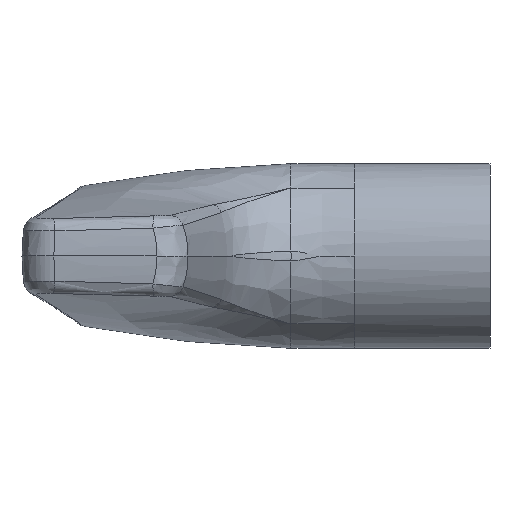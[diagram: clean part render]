
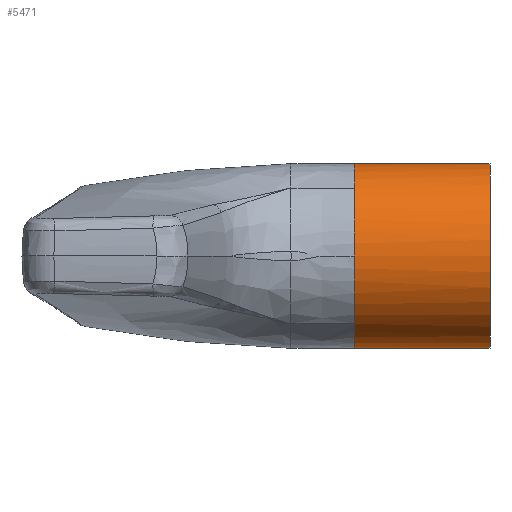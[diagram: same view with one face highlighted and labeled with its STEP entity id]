
A CAD part, front view. The second image highlights one B-rep face of the part: STEP entity #5471.
In plain terms, the highlighted cylindrical face has radius 12.75 mm (diameter 25.5 mm), a partial arc.
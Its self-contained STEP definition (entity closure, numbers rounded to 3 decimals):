
#256 = CARTESIAN_POINT ( 'NONE',  ( -18.75, -8.5, 9.505 ) ) ;
#303 = VECTOR ( 'NONE', #7227, 1000. ) ;
#322 = CARTESIAN_POINT ( 'NONE',  ( -18.75, 0., -12.75 ) ) ;
#454 = CARTESIAN_POINT ( 'NONE',  ( -18.75, -10.387, 7.482 ) ) ;
#547 = CARTESIAN_POINT ( 'NONE',  ( -18.75, -8.642, -9.375 ) ) ;
#548 = ORIENTED_EDGE ( 'NONE', *, *, #3263, .F. ) ;
#563 = EDGE_LOOP ( 'NONE', ( #3115, #1207, #6821, #8279, #7940, #548, #5978 ) ) ;
#991 = CARTESIAN_POINT ( 'NONE',  ( -18.75, -10.387, -7.482 ) ) ;
#1143 = CARTESIAN_POINT ( 'NONE',  ( -18.75, -8.642, 9.375 ) ) ;
#1207 = ORIENTED_EDGE ( 'NONE', *, *, #8418, .F. ) ;
#1384 = CARTESIAN_POINT ( 'NONE',  ( -18.75, -0.598, -12.75 ) ) ;
#1537 = EDGE_CURVE ( 'NONE', #5484, #10682, #6995, .T. ) ;
#1625 = LINE ( 'NONE', #5011, #10402 ) ;
#1630 = EDGE_CURVE ( 'NONE', #2137, #5484, #5731, .T. ) ;
#1868 = CARTESIAN_POINT ( 'NONE',  ( -18.75, -9.335, -8.7 ) ) ;
#1906 = CARTESIAN_POINT ( 'NONE',  ( 0., 0., 12.75 ) ) ;
#1928 = CARTESIAN_POINT ( 'NONE',  ( -18.75, -8.949, -9.092 ) ) ;
#2041 = CYLINDRICAL_SURFACE ( 'NONE', #11129, 12.75 ) ;
#2075 = CARTESIAN_POINT ( 'NONE',  ( -18.75, -1.715, 12.671 ) ) ;
#2083 = CARTESIAN_POINT ( 'NONE',  ( -18.75, -1.715, -12.671 ) ) ;
#2131 = CARTESIAN_POINT ( 'NONE',  ( -18.75, -4.039, 12.11 ) ) ;
#2135 = CARTESIAN_POINT ( 'NONE',  ( -18.75, -12.511, -2.521 ) ) ;
#2137 = VERTEX_POINT ( 'NONE', #4367 ) ;
#2210 = CARTESIAN_POINT ( 'NONE',  ( -18.75, -12.511, 2.521 ) ) ;
#2526 = CARTESIAN_POINT ( 'NONE',  ( -18.75, -12.75, 0. ) ) ;
#2558 = EDGE_CURVE ( 'NONE', #11039, #10682, #8171, .T. ) ;
#2742 = CARTESIAN_POINT ( 'NONE',  ( -18.75, -8.642, -9.375 ) ) ;
#2954 = CARTESIAN_POINT ( 'NONE',  ( -18.75, -6.808, 10.828 ) ) ;
#3013 = CARTESIAN_POINT ( 'NONE',  ( -18.75, -12.283, -3.445 ) ) ;
#3115 = ORIENTED_EDGE ( 'NONE', *, *, #10852, .F. ) ;
#3134 = CARTESIAN_POINT ( 'NONE',  ( -18.75, -5.238, -11.671 ) ) ;
#3147 = CARTESIAN_POINT ( 'NONE',  ( 0., 0., 0. ) ) ;
#3263 = EDGE_CURVE ( 'NONE', #3416, #2137, #5042, .T. ) ;
#3416 = VERTEX_POINT ( 'NONE', #547 ) ;
#4001 = CARTESIAN_POINT ( 'NONE',  ( -18.75, -8.5, -9.505 ) ) ;
#4021 = CARTESIAN_POINT ( 'NONE',  ( -18.75, -8.642, 9.375 ) ) ;
#4367 = CARTESIAN_POINT ( 'NONE',  ( -18.75, -12.75, 0. ) ) ;
#4406 = VERTEX_POINT ( 'NONE', #10110 ) ;
#4534 = CARTESIAN_POINT ( 'NONE',  ( -18.75, -2.888, 12.431 ) ) ;
#4555 = CARTESIAN_POINT ( 'NONE',  ( -18.75, -11.295, -6.069 ) ) ;
#4880 = DIRECTION ( 'NONE',  ( 0., 0., -1. ) ) ;
#4960 = CIRCLE ( 'NONE', #11513, 12.75 ) ;
#5011 = CARTESIAN_POINT ( 'NONE',  ( 0., 0., -12.75 ) ) ;
#5042 = B_SPLINE_CURVE_WITH_KNOTS ( 'NONE', 3,
 ( #2742, #1928, #1868, #991, #4555, #5497, #3013, #2135, #7863, #5049, #2526 ),
 .UNSPECIFIED., .F., .F.,
 ( 4, 1, 1, 1, 1, 1, 1, 1, 4 ),
 ( 0.473, 0.536, 0.556, 0.714, 0.786, 0.833, 0.857, 0.929, 1. ),
 .UNSPECIFIED. ) ;
#5049 = CARTESIAN_POINT ( 'NONE',  ( -18.75, -12.75, -0.475 ) ) ;
#5471 = ADVANCED_FACE ( 'NONE', ( #10073 ), #2041, .T. ) ;
#5484 = VERTEX_POINT ( 'NONE', #8825 ) ;
#5497 = CARTESIAN_POINT ( 'NONE',  ( -18.75, -12.003, -4.355 ) ) ;
#5637 = CARTESIAN_POINT ( 'NONE',  ( -18.75, -0.598, 12.75 ) ) ;
#5721 = CARTESIAN_POINT ( 'NONE',  ( -18.75, -12.75, 0.475 ) ) ;
#5731 = B_SPLINE_CURVE_WITH_KNOTS ( 'NONE', 3,
 ( #6653, #5721, #9306, #2210, #5779, #6544, #8485, #454, #6493, #9251, #4021 ),
 .UNSPECIFIED., .F., .F.,
 ( 4, 1, 1, 1, 1, 1, 1, 1, 4 ),
 ( 0., 0.071, 0.143, 0.167, 0.214, 0.286, 0.444, 0.464, 0.527 ),
 .UNSPECIFIED. ) ;
#5779 = CARTESIAN_POINT ( 'NONE',  ( -18.75, -12.283, 3.445 ) ) ;
#5887 = DIRECTION ( 'NONE',  ( -1., 0., 0. ) ) ;
#5978 = ORIENTED_EDGE ( 'NONE', *, *, #6024, .F. ) ;
#6024 = EDGE_CURVE ( 'NONE', #4406, #3416, #11212, .T. ) ;
#6118 = CARTESIAN_POINT ( 'NONE',  ( 0., 0., 12.75 ) ) ;
#6493 = CARTESIAN_POINT ( 'NONE',  ( -18.75, -9.335, 8.7 ) ) ;
#6544 = CARTESIAN_POINT ( 'NONE',  ( -18.75, -12.003, 4.355 ) ) ;
#6631 = DIRECTION ( 'NONE',  ( 1., 0., 0. ) ) ;
#6648 = DIRECTION ( 'NONE',  ( 0., 0., 1. ) ) ;
#6653 = CARTESIAN_POINT ( 'NONE',  ( -18.75, -12.75, 0. ) ) ;
#6751 = CARTESIAN_POINT ( 'NONE',  ( -18.75, -2.888, -12.431 ) ) ;
#6792 = CARTESIAN_POINT ( 'NONE',  ( -18.75, 0., 12.75 ) ) ;
#6806 = CARTESIAN_POINT ( 'NONE',  ( 0., 0., 0. ) ) ;
#6821 = ORIENTED_EDGE ( 'NONE', *, *, #2558, .T. ) ;
#6995 = B_SPLINE_CURVE_WITH_KNOTS ( 'NONE', 3,
 ( #1143, #256, #10158, #2954, #10106, #2131, #4534, #2075, #5637, #9225 ),
 .UNSPECIFIED., .F., .F.,
 ( 4, 1, 1, 1, 1, 1, 1, 4 ),
 ( 0.527, 0.556, 0.643, 0.732, 0.821, 0.833, 0.911, 1. ),
 .UNSPECIFIED. ) ;
#7227 = DIRECTION ( 'NONE',  ( -1., 0., 0. ) ) ;
#7863 = CARTESIAN_POINT ( 'NONE',  ( -18.75, -12.697, -1.426 ) ) ;
#7940 = ORIENTED_EDGE ( 'NONE', *, *, #1630, .F. ) ;
#8171 = LINE ( 'NONE', #1906, #303 ) ;
#8279 = ORIENTED_EDGE ( 'NONE', *, *, #1537, .F. ) ;
#8410 = CARTESIAN_POINT ( 'NONE',  ( -18.75, -6.808, -10.828 ) ) ;
#8418 = EDGE_CURVE ( 'NONE', #11039, #9882, #4960, .T. ) ;
#8485 = CARTESIAN_POINT ( 'NONE',  ( -18.75, -11.295, 6.069 ) ) ;
#8524 = CARTESIAN_POINT ( 'NONE',  ( -18.75, -4.039, -12.11 ) ) ;
#8825 = CARTESIAN_POINT ( 'NONE',  ( -18.75, -8.642, 9.375 ) ) ;
#9225 = CARTESIAN_POINT ( 'NONE',  ( -18.75, 0., 12.75 ) ) ;
#9251 = CARTESIAN_POINT ( 'NONE',  ( -18.75, -8.949, 9.092 ) ) ;
#9306 = CARTESIAN_POINT ( 'NONE',  ( -18.75, -12.697, 1.426 ) ) ;
#9838 = CARTESIAN_POINT ( 'NONE',  ( 0., 0., -12.75 ) ) ;
#9882 = VERTEX_POINT ( 'NONE', #9838 ) ;
#10073 = FACE_OUTER_BOUND ( 'NONE', #563, .T. ) ;
#10106 = CARTESIAN_POINT ( 'NONE',  ( -18.75, -5.238, 11.671 ) ) ;
#10110 = CARTESIAN_POINT ( 'NONE',  ( -18.75, 0., -12.75 ) ) ;
#10158 = CARTESIAN_POINT ( 'NONE',  ( -18.75, -7.918, 10.017 ) ) ;
#10223 = CARTESIAN_POINT ( 'NONE',  ( -18.75, -8.642, -9.375 ) ) ;
#10402 = VECTOR ( 'NONE', #11456, 1000. ) ;
#10682 = VERTEX_POINT ( 'NONE', #6792 ) ;
#10852 = EDGE_CURVE ( 'NONE', #9882, #4406, #1625, .T. ) ;
#10988 = CARTESIAN_POINT ( 'NONE',  ( -18.75, -7.918, -10.017 ) ) ;
#11039 = VERTEX_POINT ( 'NONE', #6118 ) ;
#11129 = AXIS2_PLACEMENT_3D ( 'NONE', #3147, #5887, #6648 ) ;
#11212 = B_SPLINE_CURVE_WITH_KNOTS ( 'NONE', 3,
 ( #322, #1384, #2083, #6751, #8524, #3134, #8410, #10988, #4001, #10223 ),
 .UNSPECIFIED., .F., .F.,
 ( 4, 1, 1, 1, 1, 1, 1, 4 ),
 ( 0., 0.089, 0.167, 0.179, 0.268, 0.357, 0.444, 0.473 ),
 .UNSPECIFIED. ) ;
#11456 = DIRECTION ( 'NONE',  ( -1., 0., 0. ) ) ;
#11513 = AXIS2_PLACEMENT_3D ( 'NONE', #6806, #6631, #4880 ) ;
